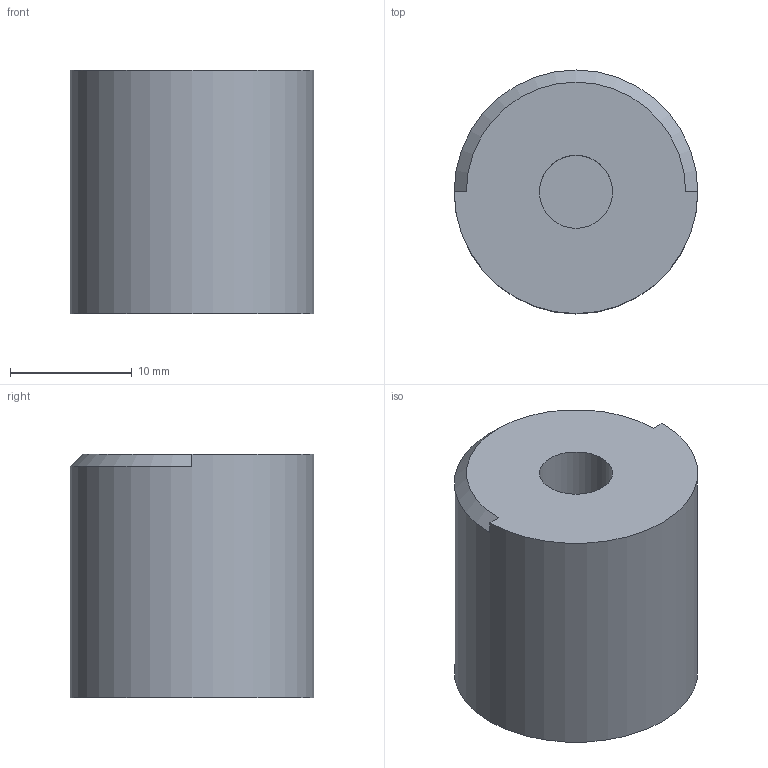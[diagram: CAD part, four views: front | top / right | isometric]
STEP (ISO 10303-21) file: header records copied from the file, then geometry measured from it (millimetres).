
FILE_DESCRIPTION(('Open CASCADE Model'),'2;1');
FILE_NAME('Open CASCADE Shape Model','2026-10-14T07:04:41',('Author'),( 'Open CASCADE'),'Open CASCADE STEP processor 7.8','Open CASCADE 7.8' ,'Unknown');
FILE_SCHEMA(('AUTOMOTIVE_DESIGN { 1 0 10303 214 1 1 1 1 }'));
Length unit declared in the file: millimetre
Products named in the file (1): Open CASCADE STEP translator 7.8 2
Bounding box: 20 x 20 x 20 mm (x, y, z)
Volume: 5928.7 mm3; surface area: 2093.1 mm2
Topology: 1 solids, 1 shells, 8 faces, 14 edges, 9 vertices
Faces by surface type: plane 5, cylinder 2, cone 1
Full cylindrical faces by diameter (mm): 6 x1, 20 x1
Entity records: 382 total; most frequent: CARTESIAN_POINT 75, DIRECTION 56, ORIENTED_EDGE 28, PCURVE 28, DEFINITIONAL_REPRESENTATION 28, LINE 22, VECTOR 22, AXIS2_PLACEMENT_3D 15
